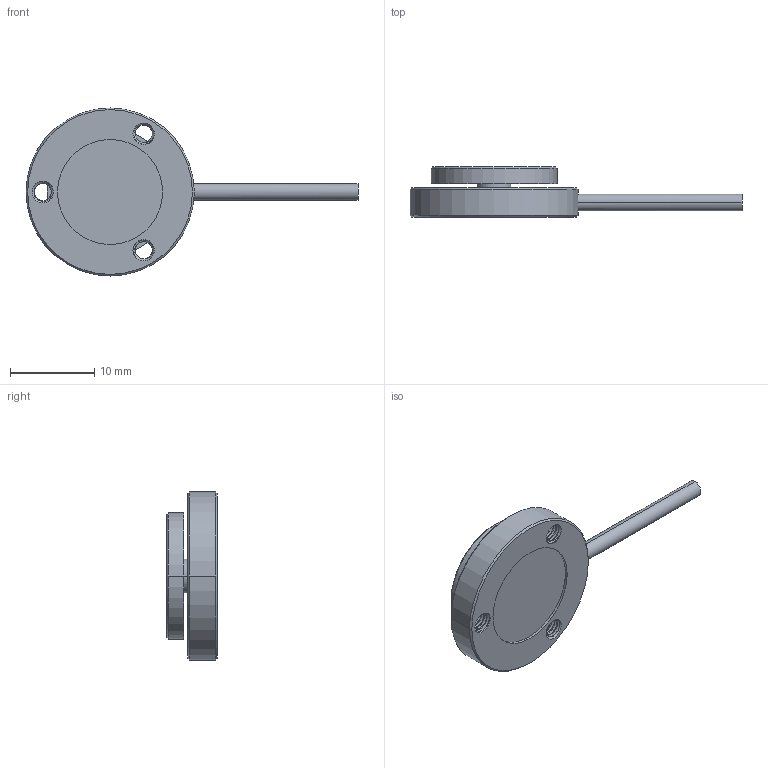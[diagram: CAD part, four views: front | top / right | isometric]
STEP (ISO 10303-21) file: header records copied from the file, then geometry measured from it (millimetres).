
FILE_DESCRIPTION (( 'STEP AP203' ), '1' );
FILE_NAME ('LCB08.STEP', '2024-11-14T01:06:35', ( '' ), ( '' ), 'SwSTEP 2.0', 'SolidWorks 2019', '' );
FILE_SCHEMA (( 'CONFIG_CONTROL_DESIGN' ));
Length unit declared in the file: millimetre
Products named in the file (1): LCB08
Bounding box: 39.5 x 6 x 20 mm (x, y, z)
Volume: 1437.6 mm3; surface area: 1485.5 mm2
Topology: 1 solids, 1 shells, 90 faces, 241 edges, 156 vertices
Faces by surface type: cylinder 58, cone 14, plane 9, bspline 9
Entity records: 10498 total; most frequent: CARTESIAN_POINT 8473, ORIENTED_EDGE 482, DIRECTION 322, EDGE_CURVE 241, VERTEX_POINT 156, AXIS2_PLACEMENT_3D 126, EDGE_LOOP 99, ADVANCED_FACE 90
